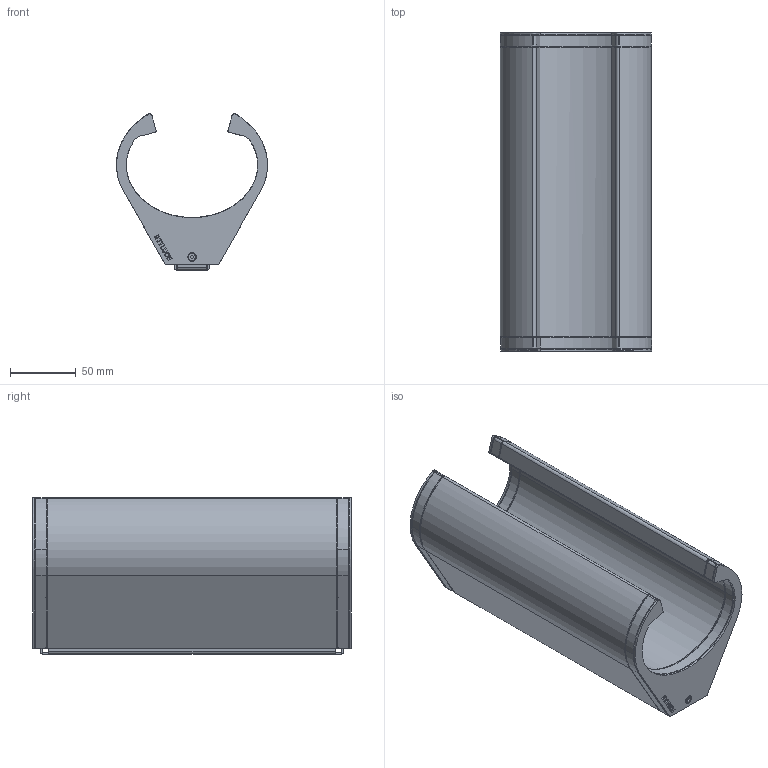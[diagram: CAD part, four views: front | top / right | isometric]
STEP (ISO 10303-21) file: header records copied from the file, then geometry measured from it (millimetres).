
FILE_DESCRIPTION (( 'STEP AP203' ), '1' );
FILE_NAME ('TILDE 240.STEP', '2026-02-25T10:35:48', ( '' ), ( '' ), 'SwSTEP 2.0', 'SolidWorks 2016', '' );
FILE_SCHEMA (( 'CONFIG_CONTROL_DESIGN' ));
Length unit declared in the file: millimetre
Products named in the file (9): 0-TIL-0002-0-00_TAPPO TILDE_0-TIL-1010-0-00_TAPPO INF FORATO PG6; 0-TIL-0002-0-00_TAPPO TILDE_0-TIL-1011-0-00_TAPPO SUP FORATO; 1-WKL-0060-0-00_SL 4W-24Vdc-2700K-CRI80-IP68-L.217mm+CAVO 200mm_Cavo Tagliato; TILDE 240; 4-TIL-0001-0-00_ESTRUSO CORPO TILDE_0-TIL-1001-0-00_CORPO L220MM FORATO; 8-1-6-03X12TSNX_VITE M3x12 T SVAS.ESAG.INC; 0-TIL-0006-0-00_GUARNIZIONE SAGOM. TILDE; 0-TIL-0003-0-00_COVER TAPPO TILDE_Logo Laterale; 0-TIL-0004-0-25_STAFFA PARETE TILDE 240_default
Assembly tree (12 placements, depth 2):
  TILDE 240
    4-TIL-0001-0-00_ESTRUSO CORPO TILDE_0-TIL-1001-0-00_CORPO L220MM FORATO
    0-TIL-0002-0-00_TAPPO TILDE_0-TIL-1010-0-00_TAPPO INF FORATO PG6
    0-TIL-0003-0-00_COVER TAPPO TILDE_Logo Laterale  x2
    0-TIL-0006-0-00_GUARNIZIONE SAGOM. TILDE  x2
    0-TIL-0002-0-00_TAPPO TILDE_0-TIL-1011-0-00_TAPPO SUP FORATO
    1-WKL-0060-0-00_SL 4W-24Vdc-2700K-CRI80-IP68-L.217mm+CAVO 200mm_Cavo Tagliato  x2
    0-TIL-0004-0-25_STAFFA PARETE TILDE 240_default
    8-1-6-03X12TSNX_VITE M3x12 T SVAS.ESAG.INC  x2
Bounding box: 115.06 x 243.4 x 118.97 mm (x, y, z)
Volume: 891933 mm3; surface area: 250626.7 mm2
Topology: 12 solids, 16 shells, 829 faces, 2191 edges, 1434 vertices
Faces by surface type: plane 451, cylinder 148, bspline 114, cone 88, torus 28
Entity records: 30146 total; most frequent: CARTESIAN_POINT 14716, ORIENTED_EDGE 3258, DIRECTION 2623, EDGE_CURVE 1629, VERTEX_POINT 1062, VECTOR 949, LINE 949, AXIS2_PLACEMENT_3D 837
